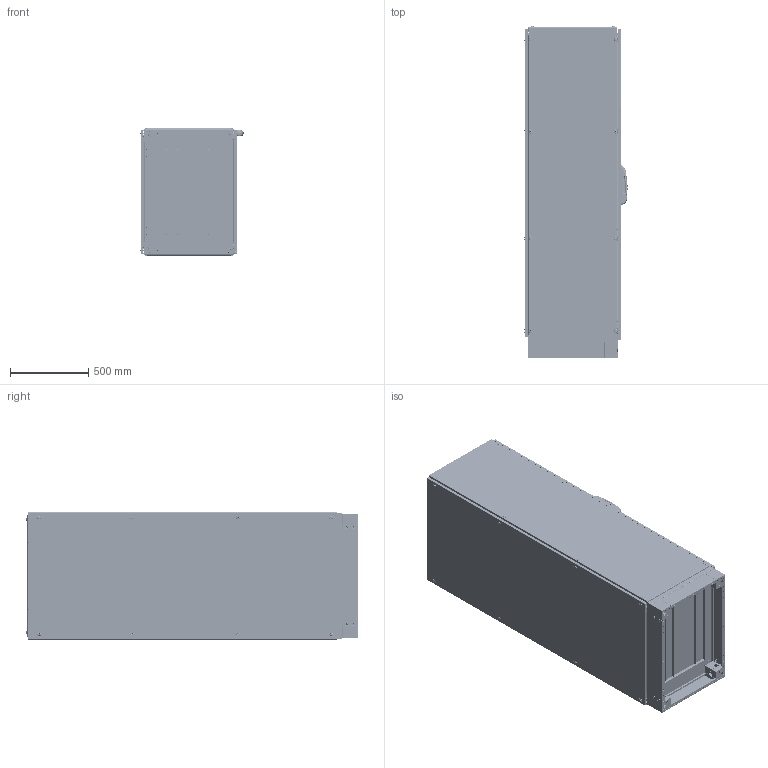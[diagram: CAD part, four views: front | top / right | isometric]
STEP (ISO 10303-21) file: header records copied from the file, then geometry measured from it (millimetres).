
FILE_DESCRIPTION (( 'STEP AP203' ), '1' );
FILE_NAME ('708.206 800x2000x600.STEP', '2020-04-06T16:22:26', ( '' ), ( '' ), 'SwSTEP 2.0', 'SolidWorks 2019', '' );
FILE_SCHEMA (( 'CONFIG_CONTROL_DESIGN' ));
Products named in the file (124): M6 HAVÞA PLASTÝK CÝVATA; Teos-Neo MP Sol Braketi; Ust Kapak 2009-10 gecme askili vidalý 1.5 akb rev_PP 12.0010 800X600 ; ENINE DELIKLI PROFIL_800; M6 KAFES SOMU2015; 03taban derinlik percinli_PP 12.0025 - 600; TEOS-NEO MP Sol Dayama; PB 14.0004 M6 HAVÞA PLASTÝK CÝVATA; V3 -2011 DT BAZA KAPAGI yan_PP 12.0051 - 600; kapali dikey profilkenetli_ita oluklu10-aaaaaaaaaaaa-1_600; socket head cap screw_am_B18.3.1M - 8 x 1.25 x 35 Hex SHCS -- 35NHX; MP 18.7631 yddk_tozkapagi; M8 KAFES SOMUN_m8; V2 -2011 DT BAZA KAPAGI ON_PP 12.0046 - 800; TEOS SIDE PANEL_706.206 2000X600; L KOSE DESTEKorj1; socket button head cap screw_am_B18.3.4M - 8 x 1.25 x 16 SBHCS --N; yan arka kapak baglantý saci; 03-taban genislik percinli 04 - 2012 100-120_PP 12.0020 - 800; TEOS Kilit Üst Çubuk Montaj_2000H; on Kapi 10-2017 2 mm dkp_PP 17.1089 800x2000; Montaj PlakAsi aaaaa 3mm_PP 12.0103 800x2000; M8 Somun Kafesi_m8; BAZA KÖÞES_SAG; yan Kapak 09-2014 800 der ust tek hv r3_PP 12.0069 - 2000X600; BAZA KÖÞES_SOL; yan arka kapak baglantý saci orta; V2 BAZA KOSESI2015_100; Teos-Neo MP Sað Braketi; MP 18.7631 Tekpan ASSEMBLY 27092017_mekanizmasiz; Teos-Neo MP Durdurucu; kafes somun kafes; TEOS V2 BAZA S嵞TEM廆800x600; MP 14.0007 M6 PLASTÝK HAVSA; M8 Kare Somun_m8; 03-KOSE PUNT; delikli profil cerceve_800x2000; MP 11.0195 montaj plakasý m8takoz1VER3 NEO26-12; 252016-2; pan cross head_am1_B18.6.7M - M5 x 0.8 x 10 Type I Cross Recessed PHMS --10N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
Assembly tree (385 placements, depth 7):
  708.206 800x2000x600
    TEOS iskelet_800x2000x600
      kapali dikey profilkenetli_ita oluklu10-aaaaaaaaaaaa-1_2000   x4
      kapali dikey profilkenetli_ita oluklu10-aaaaaaaaaaaa-1_600  x4
      kapali dikey profilkenetli_ita oluklu10-aaaaaaaaaaaa-1_800  x4
      L KOSE DESTEKorj1  x8
      kose rondela kabartmaSIZ 10  x15
      kose rondela kabartmaSIZ 12
      MP 11.0140 TEOS ALUMINYUM KOSE APPROVED 16.08.2010  x8
      M5 DÝKEY PROFÝL RONDELA  x16
      percinli taban-vidalý kapak-kose pls yok_701.860-80X60 ALT
        03-taban genislik percinli 04 - 2012 100-120_PP 12.0020 - 800  x2
        03taban derinlik percinli_PP 12.0025 - 600  x2
        03-KOSE PUNT_PP 12.0027
        03-KOSE PUNT
        Mirror03-KOSE PUNT  x2
        TEOS V2 BAZA S嵞TEM廆800x600
          BAZA KÖÞES_SAG
            V2 BAZA KOSESI2015_100
            BAZA SISTEMIV2-6 baza kapaðý201550x40_TEKPAN LOGOLU
            M6 KAFES SOMU2015
              kafes somun kafes
              somu
            M6 KAFES SOMU2015
              kafes somun kafes
              somu
          V2 -2011 DT BAZA KAPAGI ON_PP 12.0046 - 800  x2
          BAZA KÖÞES_SOL
            V2 BAZA KOSESI2015_100
            BAZA SISTEMIV2-6 baza kapaðý201550x40
            M6 KAFES SOMU2015
              kafes somun kafes
              somu
            M6 KAFES SOMU2015
              kafes somun kafes
              somu
          BAZA KÖÞES_SAG
            V2 BAZA KOSESI2015_100
            BAZA SISTEMIV2-6 baza kapaðý201550x40_TEKPAN LOGOLU
            M6 KAFES SOMU2015
              kafes somun kafes
              somu
            M6 KAFES SOMU2015
              kafes somun kafes
              somu
          BAZA KÖÞES_SOL
            V2 BAZA KOSESI2015_100
            BAZA SISTEMIV2-6 baza kapaðý201550x40
            M6 KAFES SOMU2015
              kafes somun kafes
              somu
            M6 KAFES SOMU2015
              kafes somun kafes
              somu
          V3 -2011 DT BAZA KAPAGI yan_PP 12.0051 - 600  x2
          flat head screw_am_B18.6.7M - M6 x 1.0 x 20 Type I Cross Recessed FHMS --20N  x8
        03-TABAN SACI SURGU_PP 12.0031 - 800  x2
        03-TABAN SACI U1 04-2012_PP 12.0041 -800-75
        03-TABAN SACI U1 04-2012_PP 12.0036 -800-200
        mp aLT DAYAMA_PP 12.0093 - 600  x2
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Bounding box: 658.08 x 2117.1 x 818.87 mm (x, y, z)
Volume: 23303075.1 mm3; surface area: 24627810.2 mm2
Topology: 332 solids, 372 shells, 51746 faces, 141004 edges, 89698 vertices
Faces by surface type: plane 32793, cylinder 14034, bspline 2211, torus 1139, cone 960, sphere 609
Entity records: 714586 total; most frequent: CARTESIAN_POINT 296493, ORIENTED_EDGE 85100, DIRECTION 78435, EDGE_CURVE 42550, LINE 28433, VECTOR 28433, VERTEX_POINT 27306, AXIS2_PLACEMENT_3D 25001
